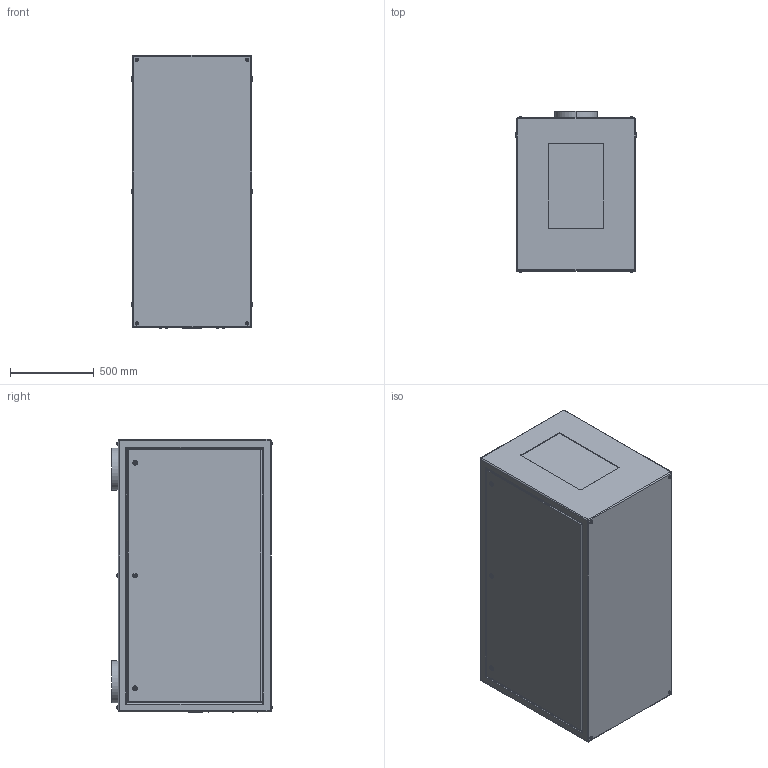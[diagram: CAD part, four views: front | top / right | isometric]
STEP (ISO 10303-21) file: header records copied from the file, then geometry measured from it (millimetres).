
FILE_DESCRIPTION (( 'STEP AP214' ), '1' );
FILE_NAME ('Tacit 56.525.P R08.STEP', '2022-09-11T22:42:49', ( '' ), ( '' ), 'SwSTEP 2.0', 'SolidWorks 2020', '' );
FILE_SCHEMA (( 'AUTOMOTIVE_DESIGN' ));
Length unit declared in the file: inch
Products named in the file (1): Tacit 56.525.P R08
Bounding box: 723.9 x 959.76 x 1630.68 mm (x, y, z)
Volume: 1055338859.6 mm3; surface area: 7010710 mm2
Topology: 1 solids, 7 shells, 401 faces, 892 edges, 560 vertices
Faces by surface type: plane 177, cylinder 168, torus 48, sphere 8
Entity records: 15011 total; most frequent: CARTESIAN_POINT 2382, DIRECTION 1972, ORIENTED_EDGE 1768, EDGE_CURVE 884, AXIS2_PLACEMENT_3D 782, VERTEX_POINT 560, EDGE_LOOP 464, LINE 408
